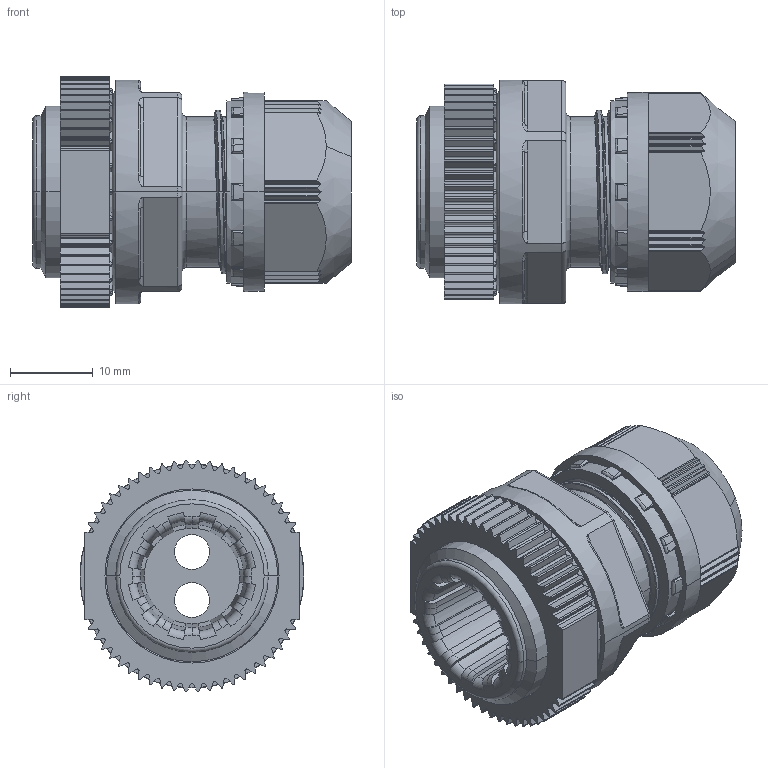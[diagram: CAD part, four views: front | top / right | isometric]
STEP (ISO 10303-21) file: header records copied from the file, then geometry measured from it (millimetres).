
FILE_DESCRIPTION(('CoCreate Modeling STEP Export'),'2;1');
FILE_NAME('OA-W16-402_公開データ.stp','2011-07-19T 9:54:35',(''),(''),'CoCreate Modeling STEP processor for AP214 (Solid Model)','CoCreate Modeling 17.00A 17-Jun-2010 (C) Parametric Technology GmbH','');
FILE_SCHEMA(('AUTOMOTIVE_DESIGN { 1 0 10303 214 1 1 1 1 }'));
Length unit declared in the file: millimetre
Products named in the file (5): OA-W16-402; ゴムブッシュ; ロックナット
Assembly tree (2 placements, depth 2):
  OA-W16-402
    OA-W16-402
  ゴムブッシュ
  ロックナット
    ロックナット
Bounding box: 38.41 x 27 x 27.96 mm (x, y, z)
Volume: 13606 mm3; surface area: 9825.3 mm2
Topology: 3 solids, 3 shells, 1019 faces, 2807 edges, 1749 vertices
Faces by surface type: cylinder 431, plane 345, torus 76, cone 62, sphere 57, bspline 48
Entity records: 42410 total; most frequent: CARTESIAN_POINT 19042, ORIENTED_EDGE 5500, DIRECTION 4129, EDGE_CURVE 2750, VERTEX_POINT 1749, AXIS2_PLACEMENT_3D 1438, VECTOR 1253, LINE 1253
